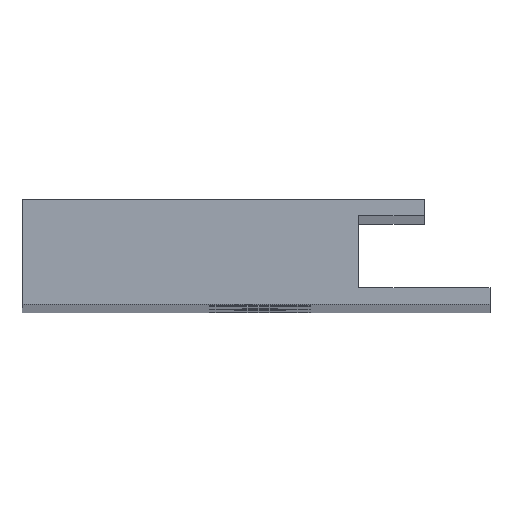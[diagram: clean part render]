
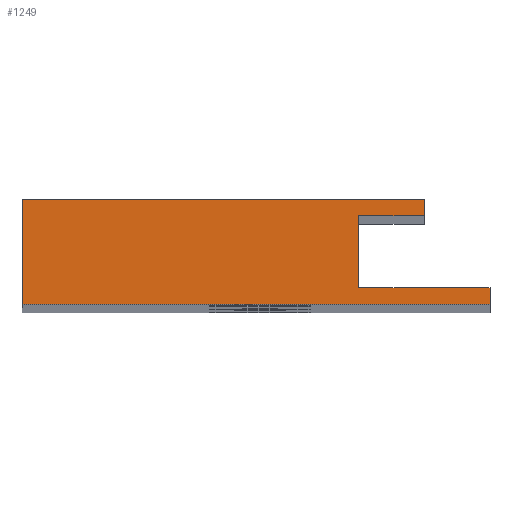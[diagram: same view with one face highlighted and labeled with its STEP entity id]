
A CAD part, top view. The second image highlights one B-rep face of the part: STEP entity #1249.
In plain terms, the highlighted planar face has unit normal (0, 0, 1).
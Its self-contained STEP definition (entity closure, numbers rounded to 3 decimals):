
#41=DIRECTION('',(-1.,0.,0.));
#42=VECTOR('',#41,24.5);
#43=CARTESIAN_POINT('',(10.,2.,300.));
#44=LINE('',#43,#42);
#177=DIRECTION('',(1.,0.,0.));
#178=VECTOR('',#177,28.5);
#179=CARTESIAN_POINT('',(-14.5,-4.4,300.));
#180=LINE('',#179,#178);
#297=DIRECTION('',(0.,-1.,0.));
#298=VECTOR('',#297,6.4);
#299=CARTESIAN_POINT('',(-14.5,2.,300.));
#300=LINE('',#299,#298);
#301=DIRECTION('',(0.,1.,0.));
#302=VECTOR('',#301,1.);
#303=CARTESIAN_POINT('',(10.,1.,300.));
#304=LINE('',#303,#302);
#305=DIRECTION('',(1.,0.,0.));
#306=VECTOR('',#305,4.);
#307=CARTESIAN_POINT('',(6.,1.,300.));
#308=LINE('',#307,#306);
#309=DIRECTION('',(0.,1.,0.));
#310=VECTOR('',#309,4.4);
#311=CARTESIAN_POINT('',(6.,-3.4,300.));
#312=LINE('',#311,#310);
#313=DIRECTION('',(-1.,0.,0.));
#314=VECTOR('',#313,4.);
#315=CARTESIAN_POINT('',(10.,-3.4,300.));
#316=LINE('',#315,#314);
#317=DIRECTION('',(-1.,0.,0.));
#318=VECTOR('',#317,4.);
#319=CARTESIAN_POINT('',(14.,-3.4,300.));
#320=LINE('',#319,#318);
#321=DIRECTION('',(0.,1.,0.));
#322=VECTOR('',#321,1.);
#323=CARTESIAN_POINT('',(14.,-4.4,300.));
#324=LINE('',#323,#322);
#741=CARTESIAN_POINT('',(-14.5,2.,300.));
#742=CARTESIAN_POINT('',(-14.5,-4.4,300.));
#743=VERTEX_POINT('',#741);
#744=VERTEX_POINT('',#742);
#745=CARTESIAN_POINT('',(10.,-3.4,300.));
#746=CARTESIAN_POINT('',(6.,-3.4,300.));
#747=VERTEX_POINT('',#745);
#748=VERTEX_POINT('',#746);
#791=CARTESIAN_POINT('',(14.,-4.4,300.));
#792=CARTESIAN_POINT('',(14.,-3.4,300.));
#793=VERTEX_POINT('',#791);
#794=VERTEX_POINT('',#792);
#795=CARTESIAN_POINT('',(6.,1.,300.));
#796=VERTEX_POINT('',#795);
#797=CARTESIAN_POINT('',(10.,1.,300.));
#798=VERTEX_POINT('',#797);
#799=CARTESIAN_POINT('',(10.,2.,300.));
#800=VERTEX_POINT('',#799);
#1233=CARTESIAN_POINT('',(0.,0.,300.));
#1234=DIRECTION('',(0.,0.,1.));
#1235=DIRECTION('',(1.,0.,0.));
#1236=AXIS2_PLACEMENT_3D('',#1233,#1234,#1235);
#1237=PLANE('',#1236);
#1238=ORIENTED_EDGE('',*,*,#995,.F.);
#1239=ORIENTED_EDGE('',*,*,#1010,.F.);
#1240=ORIENTED_EDGE('',*,*,#1084,.F.);
#1241=ORIENTED_EDGE('',*,*,#1098,.F.);
#1242=ORIENTED_EDGE('',*,*,#1112,.F.);
#1243=ORIENTED_EDGE('',*,*,#1126,.F.);
#1244=ORIENTED_EDGE('',*,*,#1140,.F.);
#1245=ORIENTED_EDGE('',*,*,#1154,.F.);
#1246=ORIENTED_EDGE('',*,*,#1165,.F.);
#1247=EDGE_LOOP('',(#1238,#1239,#1240,#1241,#1242,#1243,#1244,#1245,#1246));
#1248=FACE_OUTER_BOUND('',#1247,.F.);
#1249=ADVANCED_FACE('',(#1248),#1237,.T.);
#995=EDGE_CURVE('',#743,#744,#300,.T.);
#1010=EDGE_CURVE('',#800,#743,#44,.T.);
#1084=EDGE_CURVE('',#798,#800,#304,.T.);
#1098=EDGE_CURVE('',#796,#798,#308,.T.);
#1112=EDGE_CURVE('',#748,#796,#312,.T.);
#1126=EDGE_CURVE('',#747,#748,#316,.T.);
#1140=EDGE_CURVE('',#794,#747,#320,.T.);
#1154=EDGE_CURVE('',#793,#794,#324,.T.);
#1165=EDGE_CURVE('',#744,#793,#180,.T.);
